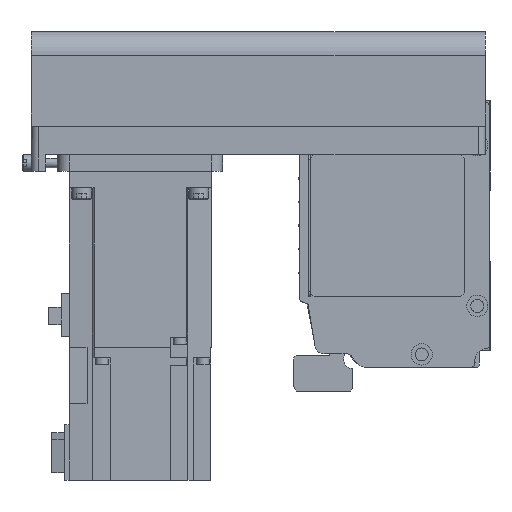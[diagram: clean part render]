
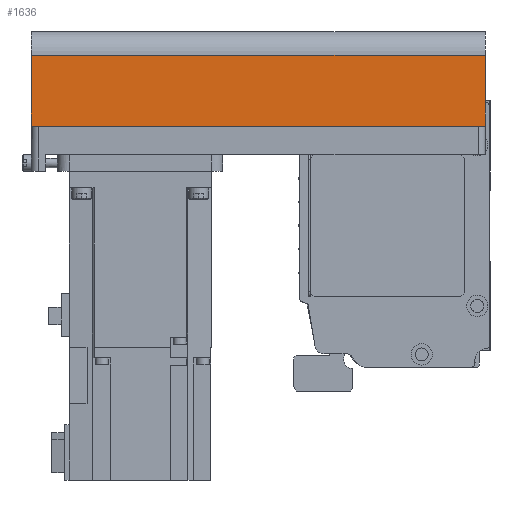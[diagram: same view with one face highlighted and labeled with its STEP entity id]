
A CAD part, left-side view. The second image highlights one B-rep face of the part: STEP entity #1636.
In plain terms, the highlighted planar face has unit normal (-1, 0, 0) as drawn and (0, 1, 0) by its records, which use the part's own axes.
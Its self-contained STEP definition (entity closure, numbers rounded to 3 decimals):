
#1636 = ADVANCED_FACE( '', ( #3591 ), #3592, .T. );
#3591 = FACE_OUTER_BOUND( '', #5911, .T. );
#3592 = PLANE( '', #5912 );
#5911 = EDGE_LOOP( '', ( #10384, #10385, #10386, #10387 ) );
#5912 = AXIS2_PLACEMENT_3D( '', #10388, #10389, #10390 );
#10384 = ORIENTED_EDGE( '', *, *, #14177, .F. );
#10385 = ORIENTED_EDGE( '', *, *, #13604, .F. );
#10386 = ORIENTED_EDGE( '', *, *, #15025, .T. );
#10387 = ORIENTED_EDGE( '', *, *, #13871, .T. );
#10388 = CARTESIAN_POINT( '', ( -192., 40., -42. ) );
#10389 = DIRECTION( '', ( 0., 1., 0. ) );
#10390 = DIRECTION( '', ( 0., 0., 1. ) );
#13604 = EDGE_CURVE( '', #16317, #16313, #16319, .T. );
#13871 = EDGE_CURVE( '', #16772, #16773, #16774, .T. );
#14177 = EDGE_CURVE( '', #16313, #16773, #17281, .T. );
#15025 = EDGE_CURVE( '', #16317, #16772, #18525, .T. );
#16313 = VERTEX_POINT( '', #20129 );
#16317 = VERTEX_POINT( '', #20134 );
#16319 = LINE( '', #20136, #20137 );
#16772 = VERTEX_POINT( '', #20726 );
#16773 = VERTEX_POINT( '', #20727 );
#16774 = LINE( '', #20728, #20729 );
#17281 = LINE( '', #21425, #21426 );
#18525 = LINE( '', #23110, #23111 );
#20129 = CARTESIAN_POINT( '', ( 0., 40., -42. ) );
#20134 = CARTESIAN_POINT( '', ( -192., 40., -42. ) );
#20136 = CARTESIAN_POINT( '', ( -192., 40., -42. ) );
#20137 = VECTOR( '', #24611, 1000. );
#20726 = CARTESIAN_POINT( '', ( -192., 40., -12.1 ) );
#20727 = CARTESIAN_POINT( '', ( 0., 40., -12.1 ) );
#20728 = CARTESIAN_POINT( '', ( -192., 40., -12.1 ) );
#20729 = VECTOR( '', #24961, 1000. );
#21425 = CARTESIAN_POINT( '', ( 0., 40., -42. ) );
#21426 = VECTOR( '', #25331, 1000. );
#23110 = CARTESIAN_POINT( '', ( -192., 40., -42. ) );
#23111 = VECTOR( '', #26354, 1000. );
#24611 = DIRECTION( '', ( 1., 0., 0. ) );
#24961 = DIRECTION( '', ( 1., 0., 0. ) );
#25331 = DIRECTION( '', ( 0., 0., 1. ) );
#26354 = DIRECTION( '', ( 0., 0., 1. ) );
